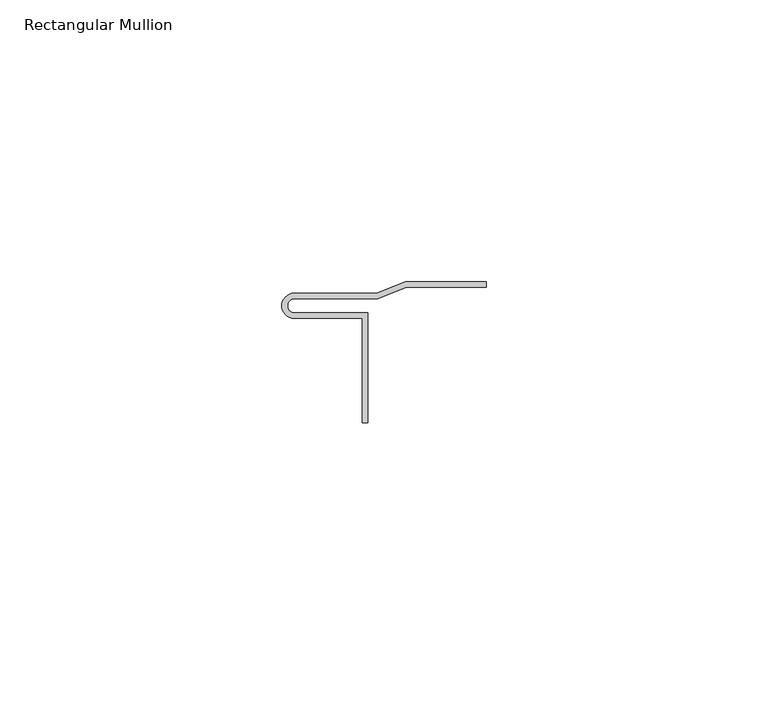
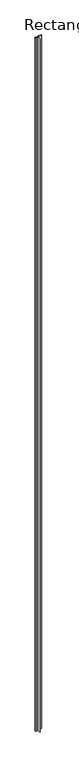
"""IFC4 building model written with IfcOpenShell, lengths in millimetres: member geometry, Rectangular Mullion : Stratco_Hiland_Interlock_Concealed Fix 10mm Gap_Female."""

from ifc_helpers import new_model, si_unit, point, frame, frame_2d, origin, place, context, project, spatial, polyline, circle_curve, trimmed, segment, composite_curve, outline, extrude, source, transform, mapped, element, save


def rectangular_mullion_6b2adc9d(model_context):
    return source(origin(), model_context, "Body", "SweptSolid", [
        extrude(outline(composite_curve([segment(polyline([(-19.1926105, -3.0), (-34.0, -3.0)]), True, "CONTINUOUS"), segment(trimmed(circle_curve(frame_2d((-34.0, -4.25)), 1.25), [point((-34.0, -3.0))], [point((-34.0, -5.5))], True, "CARTESIAN"), True, "CONTINUOUS"), segment(polyline([(-34.0, -5.5), (-21.0, -5.5), (-21.0, -25.0), (-22.0, -25.0), (-22.0, -6.5), (-34.0, -6.5)]), True, "CONTINUOUS"), segment(trimmed(circle_curve(frame_2d((-34.0, -4.25)), 2.25), [point((-34.0, -6.5))], [point((-34.0, -2.0))], False, "CARTESIAN"), True, "CONTINUOUS"), segment(polyline([(-34.0, -2.0), (-19.3843316, -2.0), (-14.3601427, 0.0), (0.0, 0.0), (0.0, -1.0), (-14.1684216, -1.0), (-19.1926105, -3.0)]), True, "CONTINUOUS")], self_intersect=False)), frame((0.0, 0.0, -4000.0), z_axis=(0.0, 0.0, 1.0), x_axis=(1.0, 0.0, 0.0)), (0.0, 0.0, 1.0), 4000.0),
    ])


if __name__ == "__main__":
    model = new_model("IFC4")
    model_context = context("Model", 3, world=origin())
    ifc_project = project(units=[si_unit("LENGTHUNIT", "METRE", prefix="MILLI")], contexts=[model_context])
    site = spatial("IfcSite", under=ifc_project)
    building = spatial("IfcBuilding", under=site)
    placement = place(None, origin())
    rectangular_mullion_shape = rectangular_mullion_6b2adc9d(model_context)
    element("IfcMember", 1, ObjectType="Rectangular Mullion : Stratco_Hiland_Interlock_Concealed Fix 10mm Gap_Female", at=placement, inside=building, context=model_context, shape_type="MappedRepresentation", body=[
        mapped(rectangular_mullion_shape, transform((0.0, 0.0, 0.0), x_axis=(1.0, 0.0, 0.0), y_axis=(0.0, 1.0, 0.0), z_axis=(0.0, 0.0, 1.0))),
    ])
    save(model, "model.ifc")
